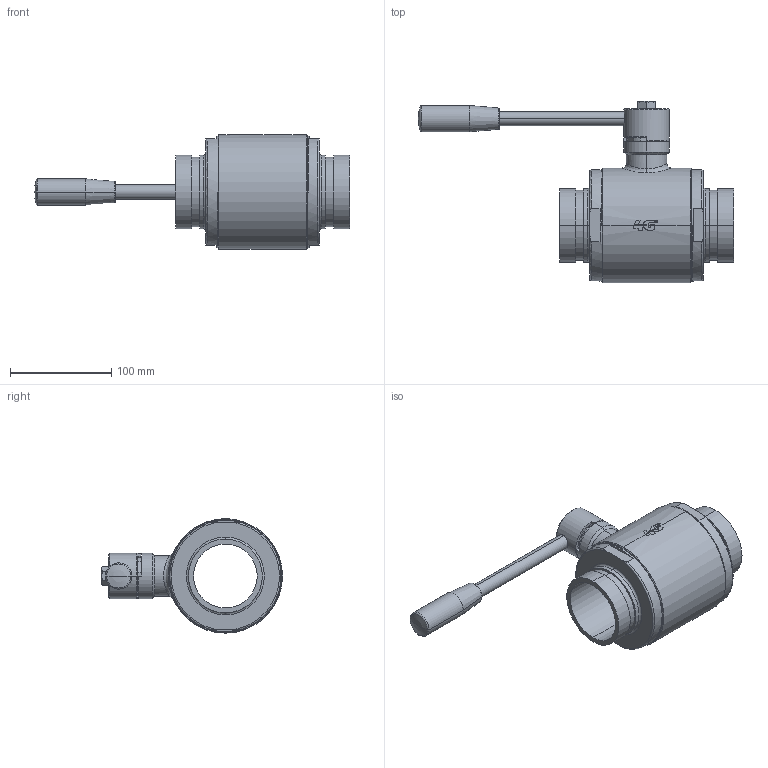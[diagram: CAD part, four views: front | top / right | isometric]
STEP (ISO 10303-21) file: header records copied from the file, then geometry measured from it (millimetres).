
FILE_DESCRIPTION((''),'2;1');
FILE_NAME('21016064410','2023-03-27T15:50:45',('alfio.taboni'),('CDM Tecnoconsulting'),'CREO PARAMETRIC BY PTC INC, 2020053','CREO PARAMETRIC BY PTC INC, 2020053','');
FILE_SCHEMA(('CONFIG_CONTROL_DESIGN','SHAPE_APPEARANCE_LAYERS_GROUPS'));
Length unit declared in the file: millimetre
Products named in the file (1): 21016064410
Bounding box: 311.5 x 179 x 113 mm (x, y, z)
Volume: 836169.9 mm3; surface area: 185971.9 mm2
Topology: 2 solids, 2 shells, 557 faces, 1467 edges, 942 vertices
Faces by surface type: plane 270, cylinder 124, cone 63, extrusion 56, bspline 22, torus 18, sphere 4
Entity records: 34592 total; most frequent: CARTESIAN_POINT 14908, ORIENTED_EDGE 2906, DIRECTION 2491, PRESENTATION_STYLE_ASSIGNMENT 1747, STYLED_ITEM 1511, CURVE_STYLE 1509, EDGE_CURVE 1453, VERTEX_POINT 942
